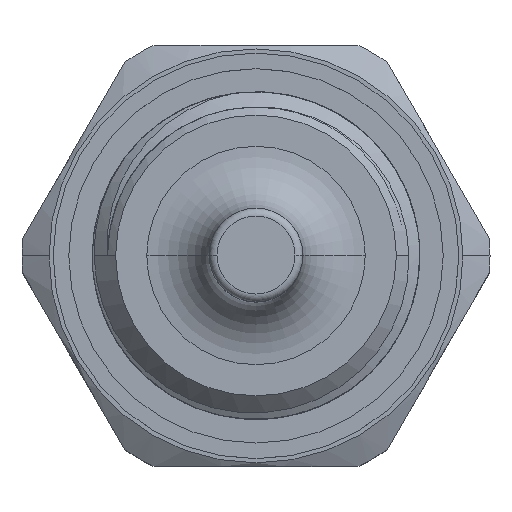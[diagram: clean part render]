
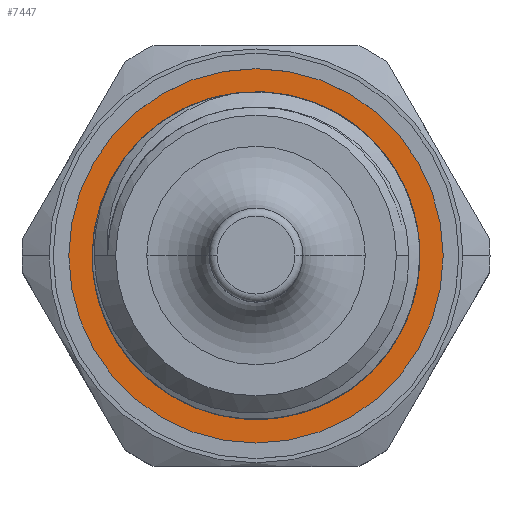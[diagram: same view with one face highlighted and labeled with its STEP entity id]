
A CAD part, top view. The second image highlights one B-rep face of the part: STEP entity #7447.
In plain terms, the highlighted planar face has unit normal (0, 0, 1).
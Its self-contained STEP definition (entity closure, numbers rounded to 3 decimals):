
#48 = FACE_BOUND ( 'NONE', #4200, .T. ) ;
#77 = CARTESIAN_POINT ( 'NONE',  ( 0., 0., -15. ) ) ;
#126 = CARTESIAN_POINT ( 'NONE',  ( -12., 0., -15. ) ) ;
#585 = DIRECTION ( 'NONE',  ( 1., 0., 0. ) ) ;
#623 = ORIENTED_EDGE ( 'NONE', *, *, #2561, .F. ) ;
#676 = EDGE_LOOP ( 'NONE', ( #4628, #2998 ) ) ;
#799 = FACE_OUTER_BOUND ( 'NONE', #676, .T. ) ;
#875 = AXIS2_PLACEMENT_3D ( 'NONE', #4372, #8374, #7072 ) ;
#900 = ORIENTED_EDGE ( 'NONE', *, *, #4708, .F. ) ;
#990 = CARTESIAN_POINT ( 'NONE',  ( -9.25, 0., -15. ) ) ;
#1178 = CARTESIAN_POINT ( 'NONE',  ( 12., 0., -15. ) ) ;
#1273 = DIRECTION ( 'NONE',  ( 0., 0., 1. ) ) ;
#2133 = DIRECTION ( 'NONE',  ( 0., 0., 1. ) ) ;
#2561 = EDGE_CURVE ( 'NONE', #5876, #2937, #8238, .T. ) ;
#2615 = CARTESIAN_POINT ( 'NONE',  ( 0., 0., -15. ) ) ;
#2820 = VERTEX_POINT ( 'NONE', #1178 ) ;
#2864 = CIRCLE ( 'NONE', #875, 12. ) ;
#2937 = VERTEX_POINT ( 'NONE', #990 ) ;
#2998 = ORIENTED_EDGE ( 'NONE', *, *, #4973, .T. ) ;
#3509 = CARTESIAN_POINT ( 'NONE',  ( 0., 0., -15. ) ) ;
#3693 = VERTEX_POINT ( 'NONE', #126 ) ;
#3938 = EDGE_CURVE ( 'NONE', #2820, #3693, #2864, .T. ) ;
#4200 = EDGE_LOOP ( 'NONE', ( #900, #623 ) ) ;
#4372 = CARTESIAN_POINT ( 'NONE',  ( 0., 0., -15. ) ) ;
#4502 = AXIS2_PLACEMENT_3D ( 'NONE', #3509, #2133, #7569 ) ;
#4628 = ORIENTED_EDGE ( 'NONE', *, *, #3938, .T. ) ;
#4684 = AXIS2_PLACEMENT_3D ( 'NONE', #77, #8050, #6791 ) ;
#4708 = EDGE_CURVE ( 'NONE', #2937, #5876, #8646, .T. ) ;
#4719 = DIRECTION ( 'NONE',  ( 1., 0., 0. ) ) ;
#4823 = CIRCLE ( 'NONE', #4684, 12. ) ;
#4836 = AXIS2_PLACEMENT_3D ( 'NONE', #2615, #1273, #4719 ) ;
#4973 = EDGE_CURVE ( 'NONE', #3693, #2820, #4823, .T. ) ;
#5526 = AXIS2_PLACEMENT_3D ( 'NONE', #7256, #8730, #585 ) ;
#5876 = VERTEX_POINT ( 'NONE', #7159 ) ;
#6791 = DIRECTION ( 'NONE',  ( 1., 0., 0. ) ) ;
#6848 = PLANE ( 'NONE',  #4502 ) ;
#7072 = DIRECTION ( 'NONE',  ( 1., 0., 0. ) ) ;
#7159 = CARTESIAN_POINT ( 'NONE',  ( 9.25, 0., -15. ) ) ;
#7256 = CARTESIAN_POINT ( 'NONE',  ( 0., 0., -15. ) ) ;
#7447 = ADVANCED_FACE ( 'NONE', ( #48, #799 ), #6848, .T. ) ;
#7569 = DIRECTION ( 'NONE',  ( 1., 0., 0. ) ) ;
#8050 = DIRECTION ( 'NONE',  ( 0., 0., 1. ) ) ;
#8238 = CIRCLE ( 'NONE', #4836, 9.25 ) ;
#8374 = DIRECTION ( 'NONE',  ( 0., 0., 1. ) ) ;
#8646 = CIRCLE ( 'NONE', #5526, 9.25 ) ;
#8730 = DIRECTION ( 'NONE',  ( 0., 0., 1. ) ) ;
